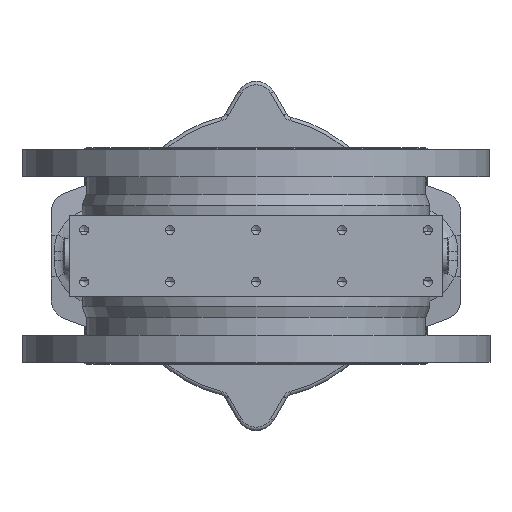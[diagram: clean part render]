
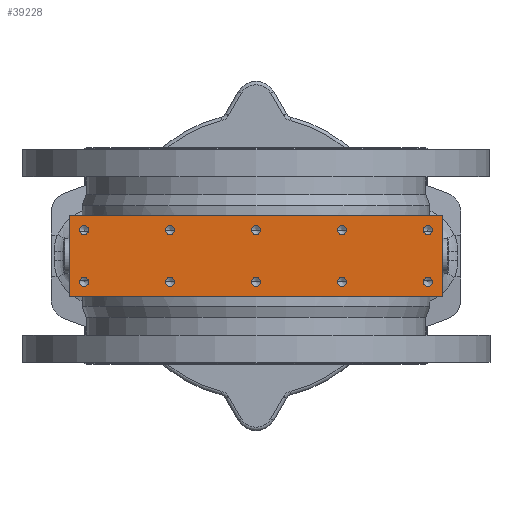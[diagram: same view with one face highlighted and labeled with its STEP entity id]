
A CAD part, front view. The second image highlights one B-rep face of the part: STEP entity #39228.
In plain terms, the highlighted planar face has unit normal (0, -1, 0).
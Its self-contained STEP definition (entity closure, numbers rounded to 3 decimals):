
#2624=FACE_BOUND('',#10666,.T.);
#2625=FACE_BOUND('',#10667,.T.);
#2626=FACE_BOUND('',#10668,.T.);
#2627=FACE_BOUND('',#10669,.T.);
#2628=FACE_BOUND('',#10670,.T.);
#2629=FACE_BOUND('',#10671,.T.);
#2630=FACE_BOUND('',#10672,.T.);
#2631=FACE_BOUND('',#10673,.T.);
#2632=FACE_BOUND('',#10674,.T.);
#2633=FACE_BOUND('',#10675,.T.);
#3436=LINE('',#60708,#5192);
#3443=LINE('',#60729,#5199);
#3451=LINE('',#60989,#5207);
#3452=LINE('',#60991,#5208);
#5192=VECTOR('',#47804,10.);
#5199=VECTOR('',#47819,10.);
#5207=VECTOR('',#48105,10.);
#5208=VECTOR('',#48108,10.);
#6868=PLANE('',#42173);
#7874=FACE_OUTER_BOUND('',#10665,.T.);
#10665=EDGE_LOOP('',(#27336,#27337,#27338,#27339));
#10666=EDGE_LOOP('',(#27340));
#10667=EDGE_LOOP('',(#27341));
#10668=EDGE_LOOP('',(#27342));
#10669=EDGE_LOOP('',(#27343));
#10670=EDGE_LOOP('',(#27344));
#10671=EDGE_LOOP('',(#27345));
#10672=EDGE_LOOP('',(#27346));
#10673=EDGE_LOOP('',(#27347));
#10674=EDGE_LOOP('',(#27348));
#10675=EDGE_LOOP('',(#27349));
#14151=CIRCLE('',#42118,3.324);
#14153=CIRCLE('',#42122,3.324);
#14155=CIRCLE('',#42126,3.324);
#14157=CIRCLE('',#42130,3.324);
#14159=CIRCLE('',#42134,3.324);
#14161=CIRCLE('',#42138,3.324);
#14163=CIRCLE('',#42142,3.324);
#14165=CIRCLE('',#42146,3.324);
#14167=CIRCLE('',#42150,3.324);
#14169=CIRCLE('',#42154,3.324);
#17335=VERTEX_POINT('',#60706);
#17336=VERTEX_POINT('',#60707);
#17345=VERTEX_POINT('',#60726);
#17346=VERTEX_POINT('',#60728);
#17398=VERTEX_POINT('',#60867);
#17400=VERTEX_POINT('',#60873);
#17402=VERTEX_POINT('',#60879);
#17404=VERTEX_POINT('',#60885);
#17406=VERTEX_POINT('',#60891);
#17408=VERTEX_POINT('',#60897);
#17410=VERTEX_POINT('',#60903);
#17412=VERTEX_POINT('',#60909);
#17414=VERTEX_POINT('',#60915);
#17416=VERTEX_POINT('',#60921);
#21186=EDGE_CURVE('',#17335,#17336,#3436,.T.);
#21196=EDGE_CURVE('',#17346,#17345,#3443,.T.);
#21249=EDGE_CURVE('',#17398,#17398,#14151,.T.);
#21251=EDGE_CURVE('',#17400,#17400,#14153,.T.);
#21253=EDGE_CURVE('',#17402,#17402,#14155,.T.);
#21255=EDGE_CURVE('',#17404,#17404,#14157,.T.);
#21257=EDGE_CURVE('',#17406,#17406,#14159,.T.);
#21259=EDGE_CURVE('',#17408,#17408,#14161,.T.);
#21261=EDGE_CURVE('',#17410,#17410,#14163,.T.);
#21263=EDGE_CURVE('',#17412,#17412,#14165,.T.);
#21265=EDGE_CURVE('',#17414,#17414,#14167,.T.);
#21267=EDGE_CURVE('',#17416,#17416,#14169,.T.);
#21286=EDGE_CURVE('',#17335,#17345,#3451,.T.);
#21287=EDGE_CURVE('',#17346,#17336,#3452,.T.);
#27336=ORIENTED_EDGE('',*,*,#21186,.T.);
#27337=ORIENTED_EDGE('',*,*,#21287,.F.);
#27338=ORIENTED_EDGE('',*,*,#21196,.T.);
#27339=ORIENTED_EDGE('',*,*,#21286,.F.);
#27340=ORIENTED_EDGE('',*,*,#21249,.T.);
#27341=ORIENTED_EDGE('',*,*,#21251,.T.);
#27342=ORIENTED_EDGE('',*,*,#21253,.T.);
#27343=ORIENTED_EDGE('',*,*,#21255,.T.);
#27344=ORIENTED_EDGE('',*,*,#21257,.T.);
#27345=ORIENTED_EDGE('',*,*,#21259,.T.);
#27346=ORIENTED_EDGE('',*,*,#21261,.T.);
#27347=ORIENTED_EDGE('',*,*,#21263,.T.);
#27348=ORIENTED_EDGE('',*,*,#21265,.T.);
#27349=ORIENTED_EDGE('',*,*,#21267,.T.);
#39228=ADVANCED_FACE('',(#7874,#2624,#2625,#2626,#2627,#2628,#2629,#2630,
#2631,#2632,#2633),#6868,.F.);
#42118=AXIS2_PLACEMENT_3D('',#60868,#47990,#47991);
#42122=AXIS2_PLACEMENT_3D('',#60874,#47998,#47999);
#42126=AXIS2_PLACEMENT_3D('',#60880,#48006,#48007);
#42130=AXIS2_PLACEMENT_3D('',#60886,#48014,#48015);
#42134=AXIS2_PLACEMENT_3D('',#60892,#48022,#48023);
#42138=AXIS2_PLACEMENT_3D('',#60898,#48030,#48031);
#42142=AXIS2_PLACEMENT_3D('',#60904,#48038,#48039);
#42146=AXIS2_PLACEMENT_3D('',#60910,#48046,#48047);
#42150=AXIS2_PLACEMENT_3D('',#60916,#48054,#48055);
#42154=AXIS2_PLACEMENT_3D('',#60922,#48062,#48063);
#42173=AXIS2_PLACEMENT_3D('',#60990,#48106,#48107);
#47804=DIRECTION('',(0.,0.,1.));
#47819=DIRECTION('',(0.,0.,-1.));
#47990=DIRECTION('center_axis',(0.,1.,0.));
#47991=DIRECTION('ref_axis',(0.,0.,
1.));
#47998=DIRECTION('center_axis',(0.,1.,0.));
#47999=DIRECTION('ref_axis',(0.,0.,
1.));
#48006=DIRECTION('center_axis',(0.,1.,0.));
#48007=DIRECTION('ref_axis',(0.,0.,
1.));
#48014=DIRECTION('center_axis',(0.,1.,0.));
#48015=DIRECTION('ref_axis',(0.,0.,
1.));
#48022=DIRECTION('center_axis',(0.,1.,0.));
#48023=DIRECTION('ref_axis',(0.,0.,
1.));
#48030=DIRECTION('center_axis',(0.,1.,0.));
#48031=DIRECTION('ref_axis',(0.,0.,
1.));
#48038=DIRECTION('center_axis',(0.,1.,0.));
#48039=DIRECTION('ref_axis',(0.,0.,
1.));
#48046=DIRECTION('center_axis',(0.,1.,0.));
#48047=DIRECTION('ref_axis',(0.,0.,
1.));
#48054=DIRECTION('center_axis',(0.,1.,0.));
#48055=DIRECTION('ref_axis',(0.,0.,
1.));
#48062=DIRECTION('center_axis',(0.,1.,0.));
#48063=DIRECTION('ref_axis',(0.,0.,
1.));
#48105=DIRECTION('',(-1.,0.,0.));
#48106=DIRECTION('center_axis',(0.,1.,0.));
#48107=DIRECTION('ref_axis',(0.,0.,
-1.));
#48108=DIRECTION('',(1.,0.,0.));
#60706=CARTESIAN_POINT('',(137.,-169.,-30.));
#60707=CARTESIAN_POINT('',(137.,-169.,30.));
#60708=CARTESIAN_POINT('',(137.,-169.,0.098));
#60726=CARTESIAN_POINT('',(-137.,-169.,-30.));
#60728=CARTESIAN_POINT('',(-137.,-169.,30.));
#60729=CARTESIAN_POINT('',(-137.,-169.,0.098));
#60867=CARTESIAN_POINT('',(63.,-169.,-15.677));
#60868=CARTESIAN_POINT('Origin',(63.,-169.,-19.));
#60873=CARTESIAN_POINT('',(-63.,-169.,-15.677));
#60874=CARTESIAN_POINT('Origin',(-63.,-169.,-19.));
#60879=CARTESIAN_POINT('',(126.,-169.,22.324));
#60880=CARTESIAN_POINT('Origin',(126.,-169.,19.));
#60885=CARTESIAN_POINT('',(0.,-169.,22.323));
#60886=CARTESIAN_POINT('Origin',(0.,-169.,19.));
#60891=CARTESIAN_POINT('',(-126.,-169.,22.323));
#60892=CARTESIAN_POINT('Origin',(-126.,-169.,19.));
#60897=CARTESIAN_POINT('',(-63.,-169.,22.323));
#60898=CARTESIAN_POINT('Origin',(-63.,-169.,19.));
#60903=CARTESIAN_POINT('',(63.,-169.,22.323));
#60904=CARTESIAN_POINT('Origin',(63.,-169.,19.));
#60909=CARTESIAN_POINT('',(-126.,-169.,-15.677));
#60910=CARTESIAN_POINT('Origin',(-126.,-169.,-19.));
#60915=CARTESIAN_POINT('',(0.,-169.,-15.677));
#60916=CARTESIAN_POINT('Origin',(0.,-169.,-19.));
#60921=CARTESIAN_POINT('',(126.,-169.,-15.677));
#60922=CARTESIAN_POINT('Origin',(126.,-169.,-19.));
#60989=CARTESIAN_POINT('',(69.5,-169.,-30.));
#60990=CARTESIAN_POINT('Origin',(0.,-169.,0.));
#60991=CARTESIAN_POINT('',(-69.5,-169.,30.));
